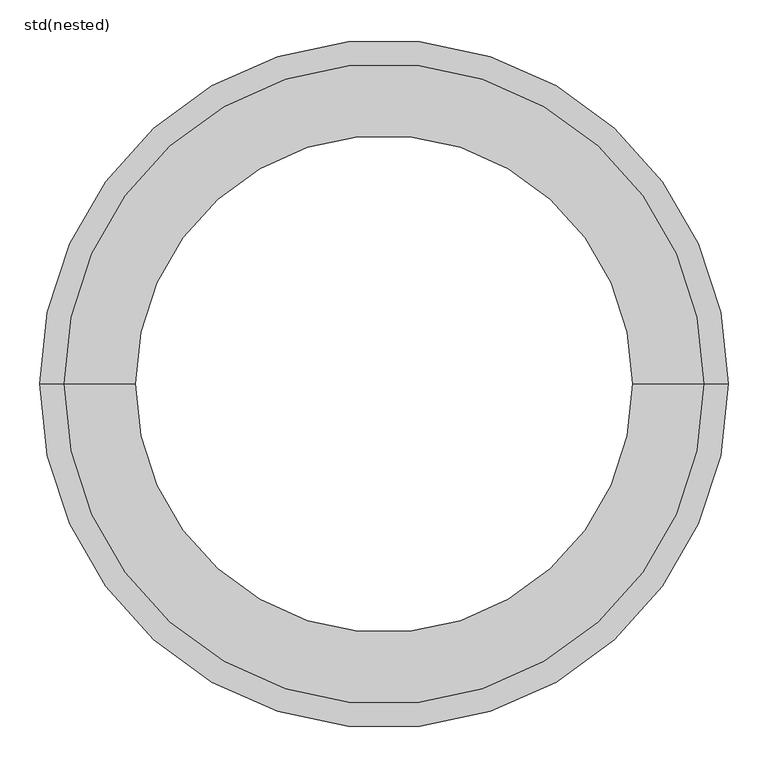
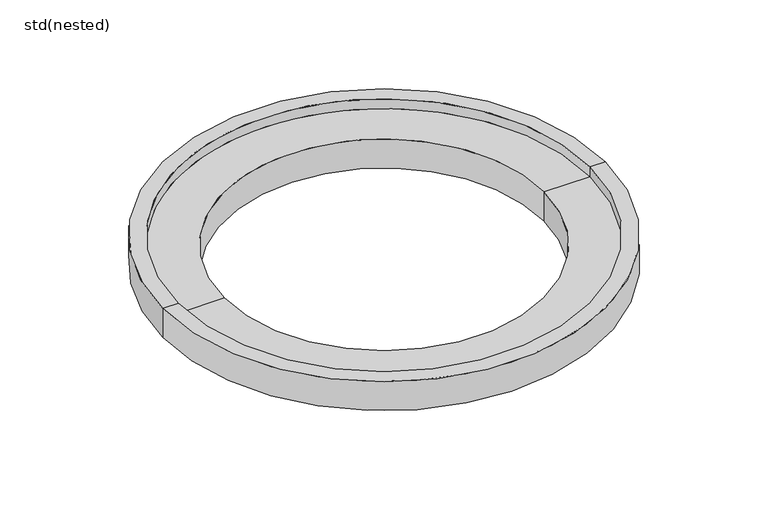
"""IFC4 building model written with IfcOpenShell, lengths in millimetres: unitary equipment geometry, ZZZ_do not use_ME_UN_concrete_bearing ring_ACO : std(nested)."""

from ifc_helpers import new_model, si_unit, frame, origin, place, context, project, spatial, polyline, circle_curve, source, transform, mapped, element, save
from ifc_brep_helpers import plane_surface, cylinder_surface, revolved_surface, advanced_brep


def std_nested_3f0f99d6(model_context):
    return source(origin(), model_context, "Body", "AdvancedBrep", [
        advanced_brep(
        [(402.5, 0.0, -60.0), (-402.5, 0.0, -60.0), (-432.5, 0.0, -60.0), (432.5, 0.0, -60.0), (402.5, 0.0, -80.0), (-402.5, 0.0, -80.0), (312.5, 0.0, -80.0), (-312.5, 0.0, -80.0), (312.5, 0.0, -20.0), (-312.5, 0.0, -20.0), (402.5, 0.0, -20.0), (-402.5, 0.0, -20.0), (402.5, 0.0, 0.0), (-402.5, 0.0, 0.0), (432.5, 0.0, 0.0), (-432.5, 0.0, 0.0)],
        [
            (0, 1, circle_curve(frame((0.0, 0.0, -60.0), z_axis=(0.0, 0.0, 1.0), x_axis=(-1.0, 0.0, 0.0)), 402.5)),
            (1, 2),
            (2, 3, circle_curve(frame((0.0, 0.0, -60.0), z_axis=(0.0, 0.0, -1.0), x_axis=(-1.0, 0.0, 0.0)), 432.5)),
            (3, 0),
            (1, 0, circle_curve(frame((0.0, 0.0, -60.0), z_axis=(0.0, 0.0, 1.0), x_axis=(-1.0, 0.0, 0.0)), 402.5)),
            (3, 2, circle_curve(frame((0.0, 0.0, -60.0), z_axis=(0.0, 0.0, -1.0), x_axis=(-1.0, 0.0, 0.0)), 432.5)),
            (4, 5, circle_curve(frame((0.0, 0.0, -80.0), z_axis=(0.0, 0.0, 1.0), x_axis=(-1.0, 0.0, 0.0)), 402.5)),
            (5, 1),
            (0, 4),
            (5, 4, circle_curve(frame((0.0, 0.0, -80.0), z_axis=(0.0, 0.0, 1.0), x_axis=(-1.0, 0.0, 0.0)), 402.5)),
            (6, 7, circle_curve(frame((0.0, 0.0, -80.0), z_axis=(0.0, 0.0, 1.0), x_axis=(-1.0, 0.0, 0.0)), 312.5)),
            (7, 5),
            (4, 6),
            (7, 6, circle_curve(frame((0.0, 0.0, -80.0), z_axis=(0.0, 0.0, 1.0), x_axis=(-1.0, 0.0, 0.0)), 312.5)),
            (8, 9, circle_curve(frame((0.0, 0.0, -20.0), z_axis=(0.0, 0.0, 1.0), x_axis=(-1.0, 0.0, 0.0)), 312.5)),
            (9, 7),
            (6, 8),
            (9, 8, circle_curve(frame((0.0, 0.0, -20.0), z_axis=(0.0, 0.0, 1.0), x_axis=(-1.0, 0.0, 0.0)), 312.5)),
            (10, 11, circle_curve(frame((0.0, 0.0, -20.0), z_axis=(0.0, 0.0, 1.0), x_axis=(-1.0, 0.0, 0.0)), 402.5)),
            (11, 9),
            (8, 10),
            (11, 10, circle_curve(frame((0.0, 0.0, -20.0), z_axis=(0.0, 0.0, 1.0), x_axis=(-1.0, 0.0, 0.0)), 402.5)),
            (12, 13, circle_curve(frame((0.0, 0.0, 0.0), z_axis=(0.0, 0.0, 1.0), x_axis=(-1.0, 0.0, 0.0)), 402.5)),
            (13, 11),
            (10, 12),
            (13, 12, circle_curve(frame((0.0, 0.0, 0.0), z_axis=(0.0, 0.0, 1.0), x_axis=(-1.0, 0.0, 0.0)), 402.5)),
            (14, 15, circle_curve(frame((0.0, 0.0, 0.0), z_axis=(0.0, 0.0, 1.0), x_axis=(-1.0, 0.0, 0.0)), 432.5)),
            (15, 13),
            (12, 14),
            (15, 14, circle_curve(frame((0.0, 0.0, 0.0), z_axis=(0.0, 0.0, 1.0), x_axis=(-1.0, 0.0, 0.0)), 432.5)),
            (2, 15),
            (14, 3),
        ],
        [
            plane_surface(frame((0.0, 0.0, -60.0), z_axis=(0.0, 0.0, -1.0), x_axis=(-1.0, 0.0, 0.0))),
            cylinder_surface(frame((0.0, 0.0, 0.0), z_axis=(0.0, 0.0, -1.0), x_axis=(-1.0, 0.0, 0.0)), 402.5),
            plane_surface(frame((0.0, 0.0, -80.0), z_axis=(0.0, 0.0, -1.0), x_axis=(-1.0, 0.0, 0.0))),
            revolved_surface(polyline([(-312.5, 0.0, -80.0), (-312.5, 0.0, -20.0)]), (0.0, 0.0, 0.0), (0.0, 0.0, -1.0)),
            plane_surface(frame((0.0, 0.0, -20.0), z_axis=(0.0, 0.0, 1.0), x_axis=(-1.0, 0.0, 0.0))),
            revolved_surface(polyline([(-402.5, 0.0, -20.0), (-402.5, 0.0, 0.0)]), (0.0, 0.0, 0.0), (0.0, 0.0, -1.0)),
            plane_surface(frame((0.0, 0.0, 0.0), z_axis=(0.0, 0.0, 1.0), x_axis=(-1.0, 0.0, 0.0))),
            cylinder_surface(frame((0.0, 0.0, 0.0), z_axis=(0.0, 0.0, -1.0), x_axis=(-1.0, 0.0, 0.0)), 432.5),
        ],
        [
            (0, [[1, 2, 3, 4]]),
            (0, [[5, -4, 6, -2]]),
            (1, [[7, 8, -1, 9]]),
            (1, [[10, -9, -5, -8]]),
            (2, [[11, 12, -7, 13]]),
            (2, [[14, -13, -10, -12]]),
            (3, [[15, 16, -11, 17]]),
            (3, [[18, -17, -14, -16]]),
            (4, [[19, 20, -15, 21]]),
            (4, [[22, -21, -18, -20]]),
            (5, [[23, 24, -19, 25]]),
            (5, [[26, -25, -22, -24]]),
            (6, [[27, 28, -23, 29]]),
            (6, [[30, -29, -26, -28]]),
            (7, [[-3, 31, -27, 32]]),
            (7, [[-6, -32, -30, -31]]),
        ],
    ),
    ])


if __name__ == "__main__":
    model = new_model("IFC4")
    model_context = context("Model", 3, world=origin())
    ifc_project = project(units=[si_unit("LENGTHUNIT", "METRE", prefix="MILLI")], contexts=[model_context])
    site = spatial("IfcSite", under=ifc_project)
    building = spatial("IfcBuilding", under=site)
    placement = place(None, origin())
    std_nested_shape = std_nested_3f0f99d6(model_context)
    element("IfcUnitaryEquipment", 1, ObjectType="ZZZ_do not use_ME_UN_concrete_bearing ring_ACO : std(nested)", at=placement, inside=building, context=model_context, shape_type="MappedRepresentation", body=[
        mapped(std_nested_shape, transform((0.0, 0.0, 0.0), x_axis=(1.0, 0.0, 0.0), y_axis=(0.0, 1.0, 0.0), z_axis=(0.0, 0.0, 1.0))),
    ])
    save(model, "model.ifc")
